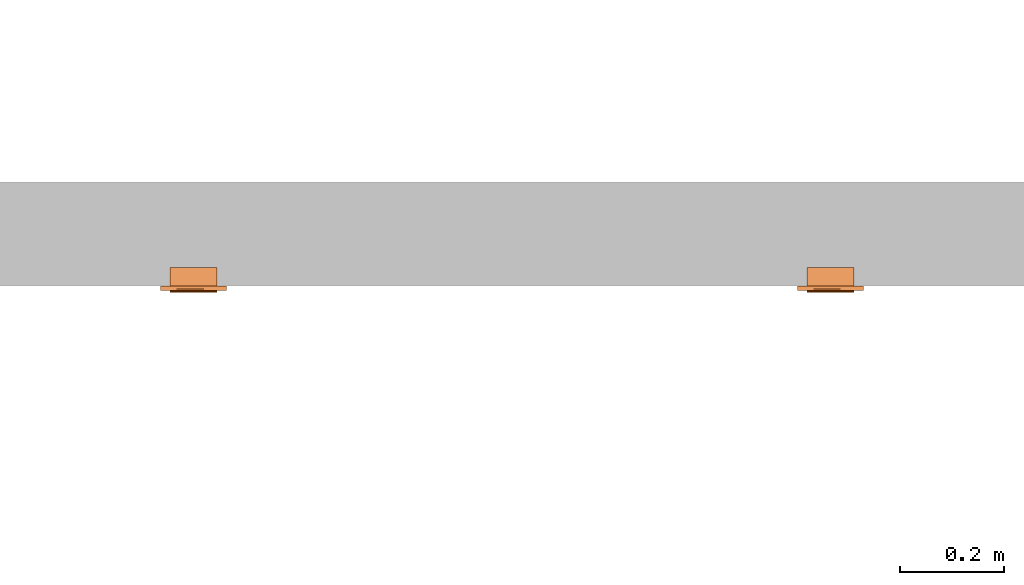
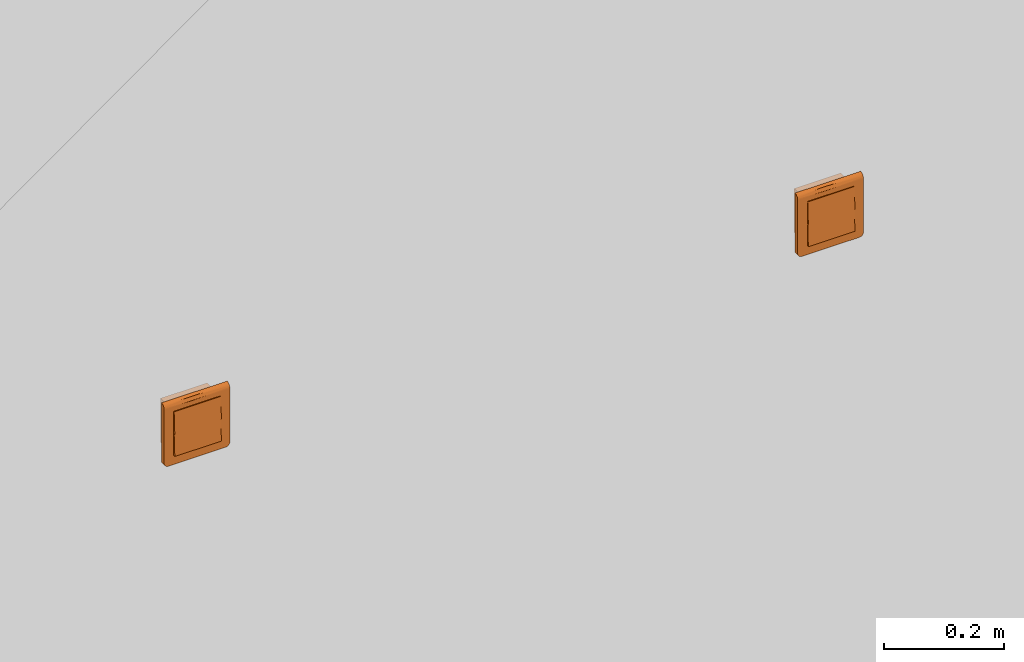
# One storey, part 179 of 197: 2 proxies.
"""IFC2X3 building model written with IfcOpenShell, lengths in metres."""

from ifc_helpers import new_model, entity, si_unit, converted_unit, direction, frame, origin, place, context, subcontext, project, spatial, faceted_brep, source, transform, mapped, material, material_list, type_object, type_shapes, element, save


model = new_model("IFC2X3")

# Units and contexts
model_context = context("Model", 3, precision=1e-05, world=origin(), true_north=direction((6.123031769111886e-17, 1.0)))
body_context = subcontext(model_context, "Body", "Model", "MODEL_VIEW")
ifc_project = project(units=[si_unit("LENGTHUNIT", "METRE"), converted_unit("PLANEANGLEUNIT", "DEGREE", entity("IfcPlaneAngleMeasure", 0.017453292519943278), si_unit("PLANEANGLEUNIT", "RADIAN"), dimensions=[0, 0, 0, 0, 0, 0, 0]), si_unit("AREAUNIT", "SQUARE_METRE")], contexts=[model_context])

# Site, building, storey
site_placement = place(None, origin())
site = spatial("IfcSite", under=ifc_project, at=site_placement, Name="Default", CompositionType="ELEMENT")
building_placement = place(site_placement, origin())
building = spatial("IfcBuilding", under=site, at=building_placement, CompositionType="ELEMENT")
storey_placement = place(building_placement, origin())
storey = spatial("IfcBuildingStorey", under=building, at=storey_placement, Name="Niveau 0", CompositionType="ELEMENT", Elevation=0.0)

# Proxies
ifc_material_1 = material(Name="<Unnamed>")
ifc_material_2 = material(Name="BETCE-DOIGT-BLANC")
ifc_material_3 = material(Name="BETCE-ENJOLIVEUR-BLANC")
ifc_material_list = material_list([ifc_material_1, ifc_material_2, ifc_material_3])
building_element_proxy_type_1 = type_object("IfcBuildingElementProxyType", Name="Tableau commande 2x4 modules encastré:4 BP + 4 VV", PredefinedType="NOTDEFINED", material=ifc_material_list)
shared_shape_1 = source(origin(), body_context, "Body", "Brep", [
    faceted_brep([(0.04499999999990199, 0.0, 0.0), (0.04499999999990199, 0.03499999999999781, 0.0), (0.022499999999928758, 0.03499999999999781, 0.0), (0.022499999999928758, 0.0, 0.0), (0.04499999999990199, 0.0, -0.045000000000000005), (0.022499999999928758, 0.0, -0.045000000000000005), (0.022499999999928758, 0.03499999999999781, -0.045000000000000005), (0.04499999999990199, 0.03499999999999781, -0.045000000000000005)], [[[0, 1, 2, 3]], [[4, 5, 6, 7]], [[1, 0, 4, 7]], [[2, 1, 7, 6]], [[3, 2, 6, 5]], [[0, 3, 5, 4]]]),
    faceted_brep([(0.04499999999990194, 0.0, 0.045000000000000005), (0.04499999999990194, 0.03499999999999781, 0.045000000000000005), (0.022499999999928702, 0.03499999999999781, 0.045000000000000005), (0.022499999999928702, 0.0, 0.045000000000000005), (0.04499999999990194, 0.0, 0.0), (0.022499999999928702, 0.0, 0.0), (0.022499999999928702, 0.03499999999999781, 0.0), (0.04499999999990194, 0.03499999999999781, 0.0)], [[[0, 1, 2, 3]], [[4, 5, 6, 7]], [[1, 0, 4, 7]], [[2, 1, 7, 6]], [[3, 2, 6, 5]], [[0, 3, 5, 4]]]),
    faceted_brep([(0.022499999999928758, 0.0, 0.0), (0.022499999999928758, 0.03499999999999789, 0.0), (0.0, 0.03499999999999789, 0.0), (0.0, 0.0, 0.0), (0.022499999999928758, 0.0, -0.045000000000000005), (0.0, 0.0, -0.045000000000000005), (0.0, 0.03499999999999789, -0.045000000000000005), (0.022499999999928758, 0.03499999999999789, -0.045000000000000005)], [[[0, 1, 2, 3]], [[4, 5, 6, 7]], [[1, 0, 4, 7]], [[2, 1, 7, 6]], [[3, 2, 6, 5]], [[0, 3, 5, 4]]]),
    faceted_brep([(0.0224999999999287, 0.0, 0.045000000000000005), (0.0224999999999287, 0.03499999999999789, 0.045000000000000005), (0.0, 0.03499999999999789, 0.045000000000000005), (0.0, 0.0, 0.045000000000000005), (0.0224999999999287, 0.0, 0.0), (0.0, 0.0, 0.0), (0.0, 0.03499999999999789, 0.0), (0.0224999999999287, 0.03499999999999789, 0.0)], [[[0, 1, 2, 3]], [[4, 5, 6, 7]], [[1, 0, 4, 7]], [[2, 1, 7, 6]], [[3, 2, 6, 5]], [[0, 3, 5, 4]]]),
    faceted_brep([(0.0, 0.0, 0.0), (0.0, 0.034999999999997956, 0.0), (-0.022500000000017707, 0.034999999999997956, 0.0), (-0.022500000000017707, 0.0, 0.0), (0.0, 0.0, -0.045000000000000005), (-0.022500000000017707, 0.0, -0.045000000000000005), (-0.022500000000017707, 0.034999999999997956, -0.045000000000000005), (0.0, 0.034999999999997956, -0.045000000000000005)], [[[0, 1, 2, 3]], [[4, 5, 6, 7]], [[1, 0, 4, 7]], [[2, 1, 7, 6]], [[3, 2, 6, 5]], [[0, 3, 5, 4]]]),
    faceted_brep([(0.0, 0.0, 0.045000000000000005), (0.0, 0.034999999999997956, 0.045000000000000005), (-0.022500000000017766, 0.034999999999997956, 0.045000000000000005), (-0.022500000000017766, 0.0, 0.045000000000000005), (0.0, 0.0, 0.0), (-0.022500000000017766, 0.0, 0.0), (-0.022500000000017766, 0.034999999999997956, 0.0), (0.0, 0.034999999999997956, 0.0)], [[[0, 1, 2, 3]], [[4, 5, 6, 7]], [[1, 0, 4, 7]], [[2, 1, 7, 6]], [[3, 2, 6, 5]], [[0, 3, 5, 4]]]),
    faceted_brep([(-0.02250000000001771, 0.0, 0.0), (-0.02250000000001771, 0.034999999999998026, 0.0), (-0.044999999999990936, 0.034999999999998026, 0.0), (-0.044999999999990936, 0.0, 0.0), (-0.02250000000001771, 0.0, -0.045000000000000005), (-0.044999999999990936, 0.0, -0.045000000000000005), (-0.044999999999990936, 0.034999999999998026, -0.045000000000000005), (-0.02250000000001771, 0.034999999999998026, -0.045000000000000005)], [[[0, 1, 2, 3]], [[4, 5, 6, 7]], [[1, 0, 4, 7]], [[2, 1, 7, 6]], [[3, 2, 6, 5]], [[0, 3, 5, 4]]]),
    faceted_brep([(-0.022500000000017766, 0.0, 0.045000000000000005), (-0.022500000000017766, 0.034999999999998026, 0.045000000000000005), (-0.044999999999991, 0.034999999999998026, 0.045000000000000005), (-0.044999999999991, 0.0, 0.045000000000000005), (-0.022500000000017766, 0.0, 0.0), (-0.044999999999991, 0.0, 0.0), (-0.044999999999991, 0.034999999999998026, 0.0), (-0.022500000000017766, 0.034999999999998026, 0.0)], [[[0, 1, 2, 3]], [[4, 5, 6, 7]], [[1, 0, 4, 7]], [[2, 1, 7, 6]], [[3, 2, 6, 5]], [[0, 3, 5, 4]]]),
    faceted_brep([(0.022499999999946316, 0.0, -0.045000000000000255), (0.022499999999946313, 0.0, 0.0), (0.04499999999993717, 0.0, 0.0), (0.04499999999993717, 0.0, -0.045000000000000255), (0.022499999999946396, -0.012750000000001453, -0.045000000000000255), (0.022499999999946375, -0.010500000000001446, 0.0), (0.044999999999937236, -0.010500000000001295, 0.0), (0.04499999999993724, -0.012750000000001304, -0.045000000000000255)], [[[0, 1, 2, 3]], [[1, 0, 4, 5]], [[2, 1, 5, 6]], [[3, 2, 6, 7]], [[0, 3, 7, 4]], [[5, 4, 7, 6]]]),
    faceted_brep([(0.0, 0.0, -0.04500000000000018), (0.0, 0.0, 0.0), (0.022499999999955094, 0.0, 0.0), (0.022499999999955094, 0.0, -0.04500000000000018), (0.0, -0.012750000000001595, -0.04500000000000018), (0.0, -0.010500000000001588, 0.0), (0.022499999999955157, -0.01050000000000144, 0.0), (0.022499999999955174, -0.012750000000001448, -0.04500000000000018)], [[[0, 1, 2, 3]], [[1, 0, 4, 5]], [[2, 1, 5, 6]], [[3, 2, 6, 7]], [[0, 3, 7, 4]], [[5, 4, 7, 6]]]),
    faceted_brep([(-0.022500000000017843, 0.0, -0.0450000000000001), (-0.022500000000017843, 0.0, 0.0), (0.0, 0.0, 0.0), (0.0, 0.0, -0.0450000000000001), (-0.02250000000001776, -0.012750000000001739, -0.0450000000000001), (-0.022500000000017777, -0.010500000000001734, 0.0), (0.0, -0.010500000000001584, 0.0), (0.0, -0.012750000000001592, -0.0450000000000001)], [[[0, 1, 2, 3]], [[1, 0, 4, 5]], [[2, 1, 5, 6]], [[3, 2, 6, 7]], [[0, 3, 7, 4]], [[5, 4, 7, 6]]]),
    faceted_brep([(-0.04499999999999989, 0.0, -0.045000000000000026), (-0.04499999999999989, 0.0, 0.0), (-0.022500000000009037, 0.0, 0.0), (-0.022500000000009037, 0.0, -0.045000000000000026), (-0.04499999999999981, -0.012750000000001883, -0.045000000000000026), (-0.04499999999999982, -0.010500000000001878, 0.0), (-0.022500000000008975, -0.01050000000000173, 0.0), (-0.022500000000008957, -0.012750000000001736, -0.045000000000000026)], [[[0, 1, 2, 3]], [[1, 0, 4, 5]], [[2, 1, 5, 6]], [[3, 2, 6, 7]], [[0, 3, 7, 4]], [[5, 4, 7, 6]]]),
    faceted_brep([(0.02249999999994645, -0.010500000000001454, 0.04499999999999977), (0.022499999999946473, -0.012750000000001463, 0.0), (0.04499999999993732, -0.012750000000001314, 0.0), (0.044999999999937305, -0.010500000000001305, 0.04499999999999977), (0.022499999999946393, 0.0, 0.0), (0.02249999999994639, 0.0, 0.04499999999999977), (0.04499999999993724, 0.0, 0.04499999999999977), (0.04499999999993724, 0.0, 0.0)], [[[0, 1, 2, 3]], [[4, 5, 6, 7]], [[5, 4, 1, 0]], [[6, 5, 0, 3]], [[7, 6, 3, 2]], [[4, 7, 2, 1]]]),
    faceted_brep([(0.0, -0.010500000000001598, 0.044999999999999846), (0.0, -0.012750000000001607, 0.0), (0.02249999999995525, -0.012750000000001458, 0.0), (0.022499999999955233, -0.010500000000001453, 0.044999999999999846), (0.0, 0.0, 0.0), (0.0, 0.0, 0.044999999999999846), (0.02249999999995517, 0.0, 0.04499999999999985), (0.02249999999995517, 0.0, 0.0)], [[[0, 1, 2, 3]], [[4, 5, 6, 7]], [[5, 4, 1, 0]], [[6, 5, 0, 3]], [[7, 6, 3, 2]], [[4, 7, 2, 1]]]),
    faceted_brep([(-0.0225000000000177, -0.010500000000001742, 0.04499999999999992), (-0.022500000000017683, -0.01275000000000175, 0.0), (0.0, -0.012750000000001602, 0.0), (0.0, -0.010500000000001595, 0.04499999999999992), (-0.022500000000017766, 0.0, 0.0), (-0.022500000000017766, 0.0, 0.04499999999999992), (0.0, 0.0, 0.04499999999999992), (0.0, 0.0, 0.0)], [[[0, 1, 2, 3]], [[4, 5, 6, 7]], [[5, 4, 1, 0]], [[6, 5, 0, 3]], [[7, 6, 3, 2]], [[4, 7, 2, 1]]]),
    faceted_brep([(-0.044999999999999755, -0.010500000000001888, 0.045), (-0.044999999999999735, -0.012750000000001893, 0.0), (-0.02250000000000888, -0.012750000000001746, 0.0), (-0.0225000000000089, -0.010500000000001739, 0.045), (-0.04499999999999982, 0.0, 0.0), (-0.04499999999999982, 0.0, 0.045), (-0.022500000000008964, 0.0, 0.045000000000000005), (-0.022500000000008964, 0.0, 0.0)], [[[0, 1, 2, 3]], [[4, 5, 6, 7]], [[5, 4, 1, 0]], [[6, 5, 0, 3]], [[7, 6, 3, 2]], [[4, 7, 2, 1]]]),
    faceted_brep([(0.06350000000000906, -0.009000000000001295, -0.055500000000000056), (0.06350000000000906, -0.009000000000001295, 0.05450000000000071), (0.045000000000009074, -0.00900000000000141, -0.045000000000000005), (0.055500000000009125, -0.009000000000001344, -0.06350000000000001), (0.057570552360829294, -0.009000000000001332, -0.06322740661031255), (0.06322740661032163, -0.009000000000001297, -0.05757055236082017), (0.04500000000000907, -0.00900000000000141, 0.045), (-0.044999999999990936, -0.00900000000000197, 0.045000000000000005), (-0.01112442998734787, -0.009000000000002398, 0.054500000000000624), (-0.06349999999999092, -0.009000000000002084, 0.05450000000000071), (-0.044999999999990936, -0.00900000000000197, -0.045000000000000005), (-0.06349999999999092, -0.009000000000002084, -0.05550000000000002), (-0.055499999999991, -0.009000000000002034, -0.06350000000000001), (-0.0575705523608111, -0.009000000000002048, -0.06322740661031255), (-0.06322740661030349, -0.009000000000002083, -0.05757055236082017), (-0.05949999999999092, -0.00900000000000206, -0.062428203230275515), (-0.062428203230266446, -0.009000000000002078, -0.05950000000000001), (-0.06115685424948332, -0.00900000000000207, -0.06115685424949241), (0.059500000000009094, -0.00900000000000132, -0.062428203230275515), (0.062428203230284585, -0.009000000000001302, -0.05949999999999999), (0.06115685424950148, -0.009000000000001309, -0.061156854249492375), (-0.063499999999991, 0.0, -0.05550000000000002), (-0.063499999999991, 0.0, 0.06350000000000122), (-0.044999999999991, 0.0, 0.045000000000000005), (-0.044999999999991, 0.0, -0.045000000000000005), (-0.055499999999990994, 0.0, -0.06350000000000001), (-0.06322740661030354, 0.0, -0.05757055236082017), (0.045000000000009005, 0.0, 0.045000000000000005), (0.011124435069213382, 0.0, 0.06350000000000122), (0.06350000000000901, 0.0, 0.0635), (0.06350000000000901, 0.0, -0.05550000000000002), (0.045000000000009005, 0.0, -0.045000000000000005), (0.05550000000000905, 0.0, -0.06350000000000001), (0.06322740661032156, 0.0, -0.05757055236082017), (0.057570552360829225, 0.0, -0.06322740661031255), (0.06242820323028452, 0.0, -0.05949999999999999), (0.05950000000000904, 0.0, -0.062428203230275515), (0.06115685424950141, 0.0, -0.061156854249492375), (-0.05757055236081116, 0.0, -0.06322740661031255), (-0.0624282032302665, 0.0, -0.05950000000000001), (-0.059499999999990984, 0.0, -0.062428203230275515), (-0.06115685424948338, 0.0, -0.06115685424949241), (0.06350000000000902, -0.00232937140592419, 0.06319333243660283), (0.06350000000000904, -0.004500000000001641, 0.06229422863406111), (0.06350000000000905, -0.006363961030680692, 0.06086396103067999), (0.06350000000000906, -0.007794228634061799, 0.05900000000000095), (0.06350000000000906, -0.008693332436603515, 0.056829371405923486), (-0.06349999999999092, -0.00869333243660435, 0.0568293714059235), (-0.06349999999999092, -0.007794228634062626, 0.059000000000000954), (-0.06349999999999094, -0.006363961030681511, 0.06086396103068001), (-0.06349999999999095, -0.004500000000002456, 0.062294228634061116), (-0.06349999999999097, -0.002329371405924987, 0.06319333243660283), (-0.010857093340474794, -0.006120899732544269, 0.06109807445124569)], [[[0, 1, 2]], [[3, 0, 2]], [[0, 3, 4]], [[5, 0, 4]], [[2, 1, 6]], [[1, 7, 6]], [[7, 1, 8]], [[7, 8, 9]], [[10, 7, 9]], [[11, 10, 9]], [[12, 10, 11]], [[12, 11, 13]], [[13, 11, 14]], [[15, 13, 14]], [[16, 15, 14]], [[15, 16, 17]], [[10, 12, 3]], [[2, 10, 3]], [[5, 4, 18]], [[5, 18, 19]], [[20, 19, 18]], [[21, 22, 23]], [[24, 21, 23]], [[25, 21, 24]], [[26, 21, 25]], [[22, 27, 23]], [[27, 22, 28]], [[27, 28, 29]], [[30, 27, 29]], [[31, 27, 30]], [[32, 31, 30]], [[32, 30, 33]], [[32, 33, 34]], [[33, 35, 34]], [[35, 36, 34]], [[36, 35, 37]], [[31, 32, 25]], [[26, 25, 38]], [[24, 31, 25]], [[39, 26, 38]], [[39, 38, 40]], [[41, 39, 40]], [[1, 0, 30, 29, 42, 43, 44, 45, 46]], [[33, 30, 0, 5]], [[35, 33, 5, 19]], [[37, 35, 19, 20]], [[36, 37, 20, 18]], [[34, 36, 18, 4]], [[32, 34, 4, 3]], [[25, 32, 3, 12]], [[38, 25, 12, 13]], [[40, 38, 13, 15]], [[41, 40, 15, 17]], [[39, 41, 17, 16]], [[26, 39, 16, 14]], [[21, 26, 14, 11]], [[22, 21, 11, 9, 47, 48, 49, 50, 51]], [[24, 23, 7, 10]], [[31, 24, 10, 2]], [[27, 31, 2, 6]], [[23, 27, 6, 7]], [[52, 8, 45]], [[47, 9, 8]], [[1, 46, 8]], [[44, 52, 45]], [[46, 45, 8]], [[50, 52, 51]], [[48, 47, 8]], [[28, 52, 43]], [[48, 52, 49]], [[42, 29, 28]], [[28, 22, 51]], [[48, 8, 52]], [[28, 43, 42]], [[44, 43, 52]], [[52, 50, 49]], [[52, 28, 51]]]),
])
type_shapes(building_element_proxy_type_1, [shared_shape_1])
proxy_1_placement = place(storey_placement, frame((-351.1217796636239, 122.781355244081, 1.1)))
element("IfcBuildingElementProxy", 1, at=proxy_1_placement, inside=storey, type_object=building_element_proxy_type_1, material=ifc_material_list, Name="Tableau commande 2x4 modules encastré:4 BP + 4 VV", ObjectType="Tableau commande 2x4 modules encastré:4 BP + 4 VV", context=body_context, shape_type="MappedRepresentation", body=[
    mapped(shared_shape_1, transform((0.0, 0.0, 0.0), scale=1.0)),
])
building_element_proxy_type_2 = type_object("IfcBuildingElementProxyType", Name="Tableau commande 2x4 modules encastré:5 BP + 3 VV", PredefinedType="NOTDEFINED", material=ifc_material_list)
shared_shape_2 = source(origin(), body_context, "Body", "Brep", [
    faceted_brep([(0.04499999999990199, 0.0, 0.0), (0.04499999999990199, 0.03499999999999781, 0.0), (0.022499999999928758, 0.03499999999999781, 0.0), (0.022499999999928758, 0.0, 0.0), (0.04499999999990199, 0.0, -0.045000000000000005), (0.022499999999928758, 0.0, -0.045000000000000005), (0.022499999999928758, 0.03499999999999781, -0.045000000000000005), (0.04499999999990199, 0.03499999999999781, -0.045000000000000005)], [[[0, 1, 2, 3]], [[4, 5, 6, 7]], [[1, 0, 4, 7]], [[2, 1, 7, 6]], [[3, 2, 6, 5]], [[0, 3, 5, 4]]]),
    faceted_brep([(0.04499999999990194, 0.0, 0.045000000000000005), (0.04499999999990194, 0.03499999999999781, 0.045000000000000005), (0.022499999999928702, 0.03499999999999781, 0.045000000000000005), (0.022499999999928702, 0.0, 0.045000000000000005), (0.04499999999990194, 0.0, 0.0), (0.022499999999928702, 0.0, 0.0), (0.022499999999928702, 0.03499999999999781, 0.0), (0.04499999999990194, 0.03499999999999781, 0.0)], [[[0, 1, 2, 3]], [[4, 5, 6, 7]], [[1, 0, 4, 7]], [[2, 1, 7, 6]], [[3, 2, 6, 5]], [[0, 3, 5, 4]]]),
    faceted_brep([(0.022499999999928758, 0.0, 0.0), (0.022499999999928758, 0.03499999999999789, 0.0), (0.0, 0.03499999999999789, 0.0), (0.0, 0.0, 0.0), (0.022499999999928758, 0.0, -0.045000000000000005), (0.0, 0.0, -0.045000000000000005), (0.0, 0.03499999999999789, -0.045000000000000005), (0.022499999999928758, 0.03499999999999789, -0.045000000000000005)], [[[0, 1, 2, 3]], [[4, 5, 6, 7]], [[1, 0, 4, 7]], [[2, 1, 7, 6]], [[3, 2, 6, 5]], [[0, 3, 5, 4]]]),
    faceted_brep([(0.0224999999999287, 0.0, 0.045000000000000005), (0.0224999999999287, 0.03499999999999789, 0.045000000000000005), (0.0, 0.03499999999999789, 0.045000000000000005), (0.0, 0.0, 0.045000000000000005), (0.0224999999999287, 0.0, 0.0), (0.0, 0.0, 0.0), (0.0, 0.03499999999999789, 0.0), (0.0224999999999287, 0.03499999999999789, 0.0)], [[[0, 1, 2, 3]], [[4, 5, 6, 7]], [[1, 0, 4, 7]], [[2, 1, 7, 6]], [[3, 2, 6, 5]], [[0, 3, 5, 4]]]),
    faceted_brep([(0.0, 0.0, 0.0), (0.0, 0.034999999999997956, 0.0), (-0.022500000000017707, 0.034999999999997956, 0.0), (-0.022500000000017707, 0.0, 0.0), (0.0, 0.0, -0.045000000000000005), (-0.022500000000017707, 0.0, -0.045000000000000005), (-0.022500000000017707, 0.034999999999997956, -0.045000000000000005), (0.0, 0.034999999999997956, -0.045000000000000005)], [[[0, 1, 2, 3]], [[4, 5, 6, 7]], [[1, 0, 4, 7]], [[2, 1, 7, 6]], [[3, 2, 6, 5]], [[0, 3, 5, 4]]]),
    faceted_brep([(0.0, 0.0, 0.045000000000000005), (0.0, 0.034999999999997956, 0.045000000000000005), (-0.022500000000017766, 0.034999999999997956, 0.045000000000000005), (-0.022500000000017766, 0.0, 0.045000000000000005), (0.0, 0.0, 0.0), (-0.022500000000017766, 0.0, 0.0), (-0.022500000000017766, 0.034999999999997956, 0.0), (0.0, 0.034999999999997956, 0.0)], [[[0, 1, 2, 3]], [[4, 5, 6, 7]], [[1, 0, 4, 7]], [[2, 1, 7, 6]], [[3, 2, 6, 5]], [[0, 3, 5, 4]]]),
    faceted_brep([(-0.02250000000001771, 0.0, 0.0), (-0.02250000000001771, 0.034999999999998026, 0.0), (-0.044999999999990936, 0.034999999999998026, 0.0), (-0.044999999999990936, 0.0, 0.0), (-0.02250000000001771, 0.0, -0.045000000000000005), (-0.044999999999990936, 0.0, -0.045000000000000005), (-0.044999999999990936, 0.034999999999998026, -0.045000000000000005), (-0.02250000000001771, 0.034999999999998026, -0.045000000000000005)], [[[0, 1, 2, 3]], [[4, 5, 6, 7]], [[1, 0, 4, 7]], [[2, 1, 7, 6]], [[3, 2, 6, 5]], [[0, 3, 5, 4]]]),
    faceted_brep([(-0.022500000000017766, 0.0, 0.045000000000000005), (-0.022500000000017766, 0.034999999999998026, 0.045000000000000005), (-0.044999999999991, 0.034999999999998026, 0.045000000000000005), (-0.044999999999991, 0.0, 0.045000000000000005), (-0.022500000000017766, 0.0, 0.0), (-0.044999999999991, 0.0, 0.0), (-0.044999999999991, 0.034999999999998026, 0.0), (-0.022500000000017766, 0.034999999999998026, 0.0)], [[[0, 1, 2, 3]], [[4, 5, 6, 7]], [[1, 0, 4, 7]], [[2, 1, 7, 6]], [[3, 2, 6, 5]], [[0, 3, 5, 4]]]),
    faceted_brep([(0.022499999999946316, 0.0, -0.045000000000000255), (0.022499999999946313, 0.0, 0.0), (0.04499999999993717, 0.0, 0.0), (0.04499999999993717, 0.0, -0.045000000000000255), (0.022499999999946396, -0.012750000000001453, -0.045000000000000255), (0.022499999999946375, -0.010500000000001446, 0.0), (0.044999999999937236, -0.010500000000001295, 0.0), (0.04499999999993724, -0.012750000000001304, -0.045000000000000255)], [[[0, 1, 2, 3]], [[1, 0, 4, 5]], [[2, 1, 5, 6]], [[3, 2, 6, 7]], [[0, 3, 7, 4]], [[5, 4, 7, 6]]]),
    faceted_brep([(0.0, 0.0, -0.04500000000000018), (0.0, 0.0, 0.0), (0.022499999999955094, 0.0, 0.0), (0.022499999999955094, 0.0, -0.04500000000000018), (0.0, -0.012750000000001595, -0.04500000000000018), (0.0, -0.010500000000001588, 0.0), (0.022499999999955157, -0.01050000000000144, 0.0), (0.022499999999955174, -0.012750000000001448, -0.04500000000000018)], [[[0, 1, 2, 3]], [[1, 0, 4, 5]], [[2, 1, 5, 6]], [[3, 2, 6, 7]], [[0, 3, 7, 4]], [[5, 4, 7, 6]]]),
    faceted_brep([(-0.022500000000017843, 0.0, -0.0450000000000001), (-0.022500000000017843, 0.0, 0.0), (0.0, 0.0, 0.0), (0.0, 0.0, -0.0450000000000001), (-0.02250000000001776, -0.012750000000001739, -0.0450000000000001), (-0.022500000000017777, -0.010500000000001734, 0.0), (0.0, -0.010500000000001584, 0.0), (0.0, -0.012750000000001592, -0.0450000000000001)], [[[0, 1, 2, 3]], [[1, 0, 4, 5]], [[2, 1, 5, 6]], [[3, 2, 6, 7]], [[0, 3, 7, 4]], [[5, 4, 7, 6]]]),
    faceted_brep([(-0.04499999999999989, 0.0, -0.045000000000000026), (-0.04499999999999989, 0.0, 0.0), (-0.022500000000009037, 0.0, 0.0), (-0.022500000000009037, 0.0, -0.045000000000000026), (-0.04499999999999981, -0.012750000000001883, -0.045000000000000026), (-0.04499999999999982, -0.010500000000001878, 0.0), (-0.022500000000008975, -0.01050000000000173, 0.0), (-0.022500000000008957, -0.012750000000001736, -0.045000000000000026)], [[[0, 1, 2, 3]], [[1, 0, 4, 5]], [[2, 1, 5, 6]], [[3, 2, 6, 7]], [[0, 3, 7, 4]], [[5, 4, 7, 6]]]),
    faceted_brep([(0.02249999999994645, -0.010500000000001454, 0.04499999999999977), (0.022499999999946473, -0.012750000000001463, 0.0), (0.04499999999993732, -0.012750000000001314, 0.0), (0.044999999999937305, -0.010500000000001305, 0.04499999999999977), (0.022499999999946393, 0.0, 0.0), (0.02249999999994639, 0.0, 0.04499999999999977), (0.04499999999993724, 0.0, 0.04499999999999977), (0.04499999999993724, 0.0, 0.0)], [[[0, 1, 2, 3]], [[4, 5, 6, 7]], [[5, 4, 1, 0]], [[6, 5, 0, 3]], [[7, 6, 3, 2]], [[4, 7, 2, 1]]]),
    faceted_brep([(0.0, -0.010500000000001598, 0.044999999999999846), (0.0, -0.012750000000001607, 0.0), (0.02249999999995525, -0.012750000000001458, 0.0), (0.022499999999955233, -0.010500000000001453, 0.044999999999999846), (0.0, 0.0, 0.0), (0.0, 0.0, 0.044999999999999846), (0.02249999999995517, 0.0, 0.04499999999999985), (0.02249999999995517, 0.0, 0.0)], [[[0, 1, 2, 3]], [[4, 5, 6, 7]], [[5, 4, 1, 0]], [[6, 5, 0, 3]], [[7, 6, 3, 2]], [[4, 7, 2, 1]]]),
    faceted_brep([(-0.0225000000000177, -0.010500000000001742, 0.04499999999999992), (-0.022500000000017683, -0.01275000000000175, 0.0), (0.0, -0.012750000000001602, 0.0), (0.0, -0.010500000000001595, 0.04499999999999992), (-0.022500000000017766, 0.0, 0.0), (-0.022500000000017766, 0.0, 0.04499999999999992), (0.0, 0.0, 0.04499999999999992), (0.0, 0.0, 0.0)], [[[0, 1, 2, 3]], [[4, 5, 6, 7]], [[5, 4, 1, 0]], [[6, 5, 0, 3]], [[7, 6, 3, 2]], [[4, 7, 2, 1]]]),
    faceted_brep([(-0.044999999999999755, -0.010500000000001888, 0.045), (-0.044999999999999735, -0.012750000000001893, 0.0), (-0.02250000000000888, -0.012750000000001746, 0.0), (-0.0225000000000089, -0.010500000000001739, 0.045), (-0.04499999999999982, 0.0, 0.0), (-0.04499999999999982, 0.0, 0.045), (-0.022500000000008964, 0.0, 0.045000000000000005), (-0.022500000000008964, 0.0, 0.0)], [[[0, 1, 2, 3]], [[4, 5, 6, 7]], [[5, 4, 1, 0]], [[6, 5, 0, 3]], [[7, 6, 3, 2]], [[4, 7, 2, 1]]]),
    faceted_brep([(0.06350000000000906, -0.009000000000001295, -0.055500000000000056), (0.06350000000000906, -0.009000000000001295, 0.05450000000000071), (0.045000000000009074, -0.00900000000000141, -0.045000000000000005), (0.055500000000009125, -0.009000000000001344, -0.06350000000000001), (0.057570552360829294, -0.009000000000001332, -0.06322740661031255), (0.06322740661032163, -0.009000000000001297, -0.05757055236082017), (0.04500000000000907, -0.00900000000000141, 0.045), (-0.044999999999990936, -0.00900000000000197, 0.045000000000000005), (-0.01112442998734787, -0.009000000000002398, 0.054500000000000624), (-0.06349999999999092, -0.009000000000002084, 0.05450000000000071), (-0.044999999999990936, -0.00900000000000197, -0.045000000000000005), (-0.06349999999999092, -0.009000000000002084, -0.05550000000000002), (-0.055499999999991, -0.009000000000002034, -0.06350000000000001), (-0.0575705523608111, -0.009000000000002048, -0.06322740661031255), (-0.06322740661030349, -0.009000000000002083, -0.05757055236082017), (-0.05949999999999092, -0.00900000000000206, -0.062428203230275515), (-0.062428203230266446, -0.009000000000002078, -0.05950000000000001), (-0.06115685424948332, -0.00900000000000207, -0.06115685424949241), (0.059500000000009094, -0.00900000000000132, -0.062428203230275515), (0.062428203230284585, -0.009000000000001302, -0.05949999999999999), (0.06115685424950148, -0.009000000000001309, -0.061156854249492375), (-0.063499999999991, 0.0, -0.05550000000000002), (-0.063499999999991, 0.0, 0.06350000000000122), (-0.044999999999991, 0.0, 0.045000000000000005), (-0.044999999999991, 0.0, -0.045000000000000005), (-0.055499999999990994, 0.0, -0.06350000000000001), (-0.06322740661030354, 0.0, -0.05757055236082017), (0.045000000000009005, 0.0, 0.045000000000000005), (0.011124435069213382, 0.0, 0.06350000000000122), (0.06350000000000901, 0.0, 0.0635), (0.06350000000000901, 0.0, -0.05550000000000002), (0.045000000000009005, 0.0, -0.045000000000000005), (0.05550000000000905, 0.0, -0.06350000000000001), (0.06322740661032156, 0.0, -0.05757055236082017), (0.057570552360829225, 0.0, -0.06322740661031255), (0.06242820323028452, 0.0, -0.05949999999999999), (0.05950000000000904, 0.0, -0.062428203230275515), (0.06115685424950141, 0.0, -0.061156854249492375), (-0.05757055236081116, 0.0, -0.06322740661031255), (-0.0624282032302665, 0.0, -0.05950000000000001), (-0.059499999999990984, 0.0, -0.062428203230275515), (-0.06115685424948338, 0.0, -0.06115685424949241), (0.06350000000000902, -0.00232937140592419, 0.06319333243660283), (0.06350000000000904, -0.004500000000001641, 0.06229422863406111), (0.06350000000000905, -0.006363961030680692, 0.06086396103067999), (0.06350000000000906, -0.007794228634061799, 0.05900000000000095), (0.06350000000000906, -0.008693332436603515, 0.056829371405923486), (-0.06349999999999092, -0.00869333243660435, 0.0568293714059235), (-0.06349999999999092, -0.007794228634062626, 0.059000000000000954), (-0.06349999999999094, -0.006363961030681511, 0.06086396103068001), (-0.06349999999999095, -0.004500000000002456, 0.062294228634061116), (-0.06349999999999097, -0.002329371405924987, 0.06319333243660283), (-0.010857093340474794, -0.006120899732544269, 0.06109807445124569)], [[[0, 1, 2]], [[3, 0, 2]], [[0, 3, 4]], [[5, 0, 4]], [[2, 1, 6]], [[1, 7, 6]], [[7, 1, 8]], [[7, 8, 9]], [[10, 7, 9]], [[11, 10, 9]], [[12, 10, 11]], [[12, 11, 13]], [[13, 11, 14]], [[15, 13, 14]], [[16, 15, 14]], [[15, 16, 17]], [[10, 12, 3]], [[2, 10, 3]], [[5, 4, 18]], [[5, 18, 19]], [[20, 19, 18]], [[21, 22, 23]], [[24, 21, 23]], [[25, 21, 24]], [[26, 21, 25]], [[22, 27, 23]], [[27, 22, 28]], [[27, 28, 29]], [[30, 27, 29]], [[31, 27, 30]], [[32, 31, 30]], [[32, 30, 33]], [[32, 33, 34]], [[33, 35, 34]], [[35, 36, 34]], [[36, 35, 37]], [[31, 32, 25]], [[26, 25, 38]], [[24, 31, 25]], [[39, 26, 38]], [[39, 38, 40]], [[41, 39, 40]], [[1, 0, 30, 29, 42, 43, 44, 45, 46]], [[33, 30, 0, 5]], [[35, 33, 5, 19]], [[37, 35, 19, 20]], [[36, 37, 20, 18]], [[34, 36, 18, 4]], [[32, 34, 4, 3]], [[25, 32, 3, 12]], [[38, 25, 12, 13]], [[40, 38, 13, 15]], [[41, 40, 15, 17]], [[39, 41, 17, 16]], [[26, 39, 16, 14]], [[21, 26, 14, 11]], [[22, 21, 11, 9, 47, 48, 49, 50, 51]], [[24, 23, 7, 10]], [[31, 24, 10, 2]], [[27, 31, 2, 6]], [[23, 27, 6, 7]], [[52, 8, 45]], [[47, 9, 8]], [[1, 46, 8]], [[44, 52, 45]], [[46, 45, 8]], [[50, 52, 51]], [[48, 47, 8]], [[28, 52, 43]], [[48, 52, 49]], [[42, 29, 28]], [[28, 22, 51]], [[48, 8, 52]], [[28, 43, 42]], [[44, 43, 52]], [[52, 50, 49]], [[52, 28, 51]]]),
])
type_shapes(building_element_proxy_type_2, [shared_shape_2])
proxy_2_placement = place(storey_placement, frame((-349.8977796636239, 122.781355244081, 1.1)))
element("IfcBuildingElementProxy", 2, at=proxy_2_placement, inside=storey, type_object=building_element_proxy_type_2, material=ifc_material_list, Name="Tableau commande 2x4 modules encastré:5 BP + 3 VV", ObjectType="Tableau commande 2x4 modules encastré:5 BP + 3 VV", context=body_context, shape_type="MappedRepresentation", body=[
    mapped(shared_shape_2, transform((0.0, 0.0, 0.0), scale=1.0)),
])

save(model, "model.ifc")
